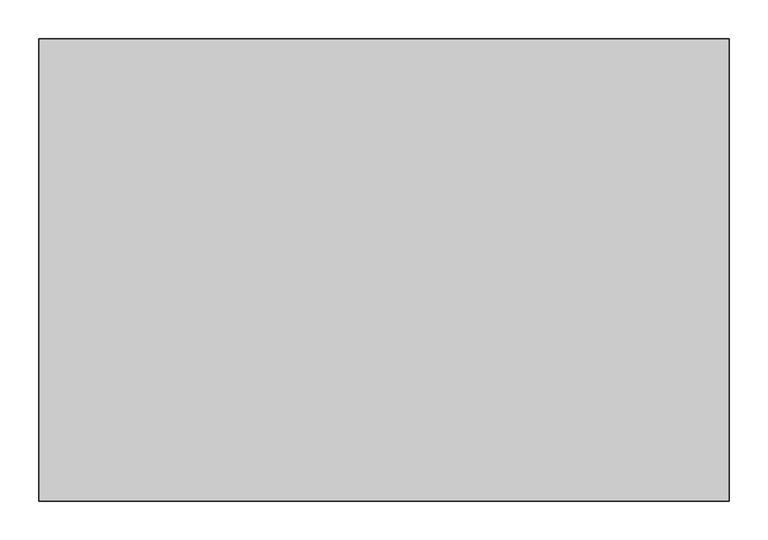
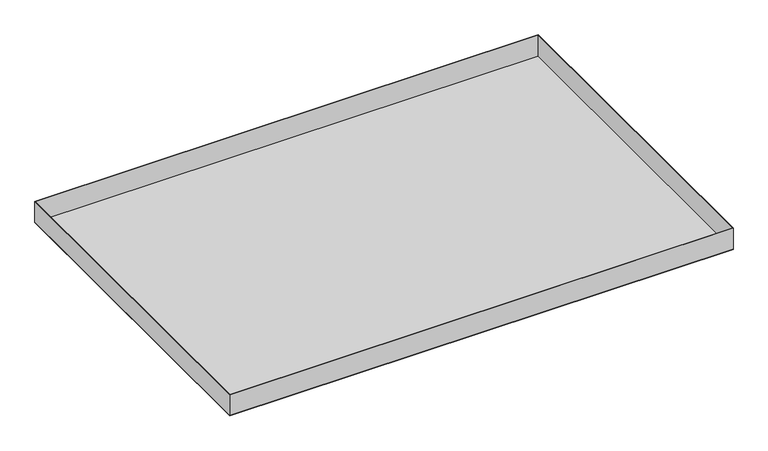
"""IFC4 building model written with IfcOpenShell, lengths in millimetres: proxy geometry, durlum_S5.7KS-BR_panel : durlum_S5.7KS-BR_panel."""

from ifc_helpers import new_model, si_unit, frame, origin, origin_with_axes, place, context, project, spatial, polyline, outline, extrude, source, transform, mapped, element, save


def generic_models_b38b7da3(model_context):
    return source(origin(), model_context, "Body", "SweptSolid", [
        extrude(outline(polyline([(447.0, 299.75), (447.0, -299.75), (-447.0, -299.75), (-447.0, 299.75), (447.0, 299.75)]), holes=[polyline([(446.0, 298.75), (-446.0, 298.75), (-446.0, -298.75), (446.0, -298.75), (446.0, 298.75)])]), frame((0.0, 0.0, 1.0), z_axis=(0.0, 0.0, 1.0), x_axis=(1.0, 0.0, 0.0)), (0.0, 0.0, 1.0), 39.0),
        extrude(outline(polyline([(447.0, 299.75), (447.0, -299.75), (-447.0, -299.75), (-447.0, 299.75), (447.0, 299.75)])), origin_with_axes(), (0.0, 0.0, 1.0), 1.0),
    ])


if __name__ == "__main__":
    model = new_model("IFC4")
    model_context = context("Model", 3, world=origin())
    ifc_project = project(units=[si_unit("LENGTHUNIT", "METRE", prefix="MILLI")], contexts=[model_context])
    site = spatial("IfcSite", under=ifc_project)
    building = spatial("IfcBuilding", under=site)
    placement = place(None, origin())
    generic_models_shape = generic_models_b38b7da3(model_context)
    element("IfcBuildingElementProxy", 1, Name="durlum_S5.7KS-BR_panel : durlum_S5.7KS-BR_panel", ObjectType="durlum_S5.7KS-BR_panel : durlum_S5.7KS-BR_panel", at=placement, inside=building, context=model_context, shape_type="MappedRepresentation", body=[
        mapped(generic_models_shape, transform((0.0, 0.0, 0.0), x_axis=(1.0, 0.0, 0.0), y_axis=(0.0, 1.0, 0.0), z_axis=(0.0, 0.0, 1.0))),
    ])
    save(model, "model.ifc")
